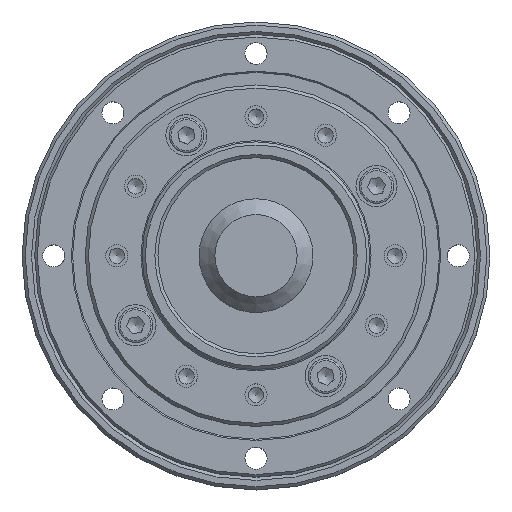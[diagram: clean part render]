
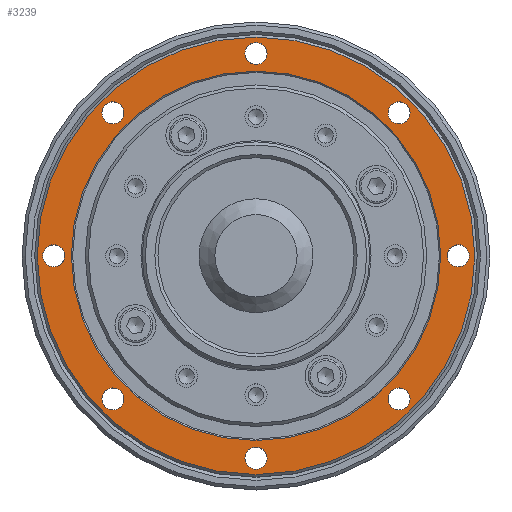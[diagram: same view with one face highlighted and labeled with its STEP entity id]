
A CAD part, top view. The second image highlights one B-rep face of the part: STEP entity #3239.
In plain terms, the highlighted planar face has unit normal (0, 0, 1).
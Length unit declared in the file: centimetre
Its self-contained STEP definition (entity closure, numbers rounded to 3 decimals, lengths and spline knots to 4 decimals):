
#343=PLANE('',#3620);
#505=FACE_BOUND('',#1085,.T.);
#506=FACE_BOUND('',#1086,.T.);
#507=FACE_BOUND('',#1087,.T.);
#508=FACE_BOUND('',#1088,.T.);
#509=FACE_BOUND('',#1089,.T.);
#510=FACE_BOUND('',#1090,.T.);
#511=FACE_BOUND('',#1091,.T.);
#512=FACE_BOUND('',#1092,.T.);
#513=FACE_BOUND('',#1093,.T.);
#514=FACE_BOUND('',#1094,.T.);
#1085=EDGE_LOOP('',(#2564));
#1086=EDGE_LOOP('',(#2565));
#1087=EDGE_LOOP('',(#2566));
#1088=EDGE_LOOP('',(#2567));
#1089=EDGE_LOOP('',(#2568));
#1090=EDGE_LOOP('',(#2569));
#1091=EDGE_LOOP('',(#2570));
#1092=EDGE_LOOP('',(#2571));
#1093=EDGE_LOOP('',(#2572));
#1094=EDGE_LOOP('',(#2573));
#1472=CIRCLE('',#3594,0.175);
#1474=CIRCLE('',#3597,0.175);
#1476=CIRCLE('',#3600,0.175);
#1478=CIRCLE('',#3603,0.175);
#1480=CIRCLE('',#3606,0.175);
#1482=CIRCLE('',#3609,0.175);
#1484=CIRCLE('',#3612,0.175);
#1486=CIRCLE('',#3615,0.175);
#1489=CIRCLE('',#3619,2.92);
#1490=CIRCLE('',#3621,3.46);
#1740=VERTEX_POINT('',#5406);
#1742=VERTEX_POINT('',#5411);
#1744=VERTEX_POINT('',#5416);
#1746=VERTEX_POINT('',#5421);
#1748=VERTEX_POINT('',#5426);
#1750=VERTEX_POINT('',#5431);
#1752=VERTEX_POINT('',#5436);
#1754=VERTEX_POINT('',#5441);
#1757=VERTEX_POINT('',#5448);
#1758=VERTEX_POINT('',#5451);
#2067=EDGE_CURVE('',#1740,#1740,#1472,.T.);
#2069=EDGE_CURVE('',#1742,#1742,#1474,.T.);
#2071=EDGE_CURVE('',#1744,#1744,#1476,.T.);
#2073=EDGE_CURVE('',#1746,#1746,#1478,.T.);
#2075=EDGE_CURVE('',#1748,#1748,#1480,.T.);
#2077=EDGE_CURVE('',#1750,#1750,#1482,.T.);
#2079=EDGE_CURVE('',#1752,#1752,#1484,.T.);
#2081=EDGE_CURVE('',#1754,#1754,#1486,.T.);
#2084=EDGE_CURVE('',#1757,#1757,#1489,.T.);
#2085=EDGE_CURVE('',#1758,#1758,#1490,.T.);
#2564=ORIENTED_EDGE('',*,*,#2084,.F.);
#2565=ORIENTED_EDGE('',*,*,#2081,.T.);
#2566=ORIENTED_EDGE('',*,*,#2079,.T.);
#2567=ORIENTED_EDGE('',*,*,#2077,.T.);
#2568=ORIENTED_EDGE('',*,*,#2075,.T.);
#2569=ORIENTED_EDGE('',*,*,#2073,.T.);
#2570=ORIENTED_EDGE('',*,*,#2071,.T.);
#2571=ORIENTED_EDGE('',*,*,#2069,.T.);
#2572=ORIENTED_EDGE('',*,*,#2067,.T.);
#2573=ORIENTED_EDGE('',*,*,#2085,.F.);
#3239=ADVANCED_FACE('',(#505,#506,#507,#508,#509,#510,#511,#512,#513,#514),
#343,.T.);
#3594=AXIS2_PLACEMENT_3D('',#5407,#4309,#4310);
#3597=AXIS2_PLACEMENT_3D('',#5412,#4315,#4316);
#3600=AXIS2_PLACEMENT_3D('',#5417,#4321,#4322);
#3603=AXIS2_PLACEMENT_3D('',#5422,#4327,#4328);
#3606=AXIS2_PLACEMENT_3D('',#5427,#4333,#4334);
#3609=AXIS2_PLACEMENT_3D('',#5432,#4339,#4340);
#3612=AXIS2_PLACEMENT_3D('',#5437,#4345,#4346);
#3615=AXIS2_PLACEMENT_3D('',#5442,#4351,#4352);
#3619=AXIS2_PLACEMENT_3D('',#5449,#4359,#4360);
#3620=AXIS2_PLACEMENT_3D('',#5450,#4361,#4362);
#3621=AXIS2_PLACEMENT_3D('',#5452,#4363,#4364);
#4309=DIRECTION('center_axis',(0.,0.,-1.));
#4310=DIRECTION('ref_axis',(0.,1.,0.));
#4315=DIRECTION('center_axis',(0.,0.,-1.));
#4316=DIRECTION('ref_axis',(0.,1.,0.));
#4321=DIRECTION('center_axis',(0.,0.,-1.));
#4322=DIRECTION('ref_axis',(0.,1.,0.));
#4327=DIRECTION('center_axis',(0.,0.,-1.));
#4328=DIRECTION('ref_axis',(0.,1.,0.));
#4333=DIRECTION('center_axis',(0.,0.,-1.));
#4334=DIRECTION('ref_axis',(0.,1.,0.));
#4339=DIRECTION('center_axis',(0.,0.,-1.));
#4340=DIRECTION('ref_axis',(0.,1.,0.));
#4345=DIRECTION('center_axis',(0.,0.,-1.));
#4346=DIRECTION('ref_axis',(0.,1.,0.));
#4351=DIRECTION('center_axis',(0.,0.,-1.));
#4352=DIRECTION('ref_axis',(0.,1.,0.));
#4359=DIRECTION('center_axis',(0.,0.,1.));
#4360=DIRECTION('ref_axis',(-1.,0.,0.));
#4361=DIRECTION('center_axis',(0.,0.,1.));
#4362=DIRECTION('ref_axis',(0.,-1.,0.));
#4363=DIRECTION('center_axis',(0.,0.,-1.));
#4364=DIRECTION('ref_axis',(-1.,0.,0.));
#5406=CARTESIAN_POINT('',(-2.2627,2.0877,1.36));
#5407=CARTESIAN_POINT('Origin',(-2.2627,2.2627,1.36));
#5411=CARTESIAN_POINT('',(-2.2627,-2.4377,1.36));
#5412=CARTESIAN_POINT('Origin',(-2.2627,-2.2627,1.36));
#5416=CARTESIAN_POINT('',(2.2627,-2.4377,1.36));
#5417=CARTESIAN_POINT('Origin',(2.2627,-2.2627,1.36));
#5421=CARTESIAN_POINT('',(2.2627,2.0877,1.36));
#5422=CARTESIAN_POINT('Origin',(2.2627,2.2627,1.36));
#5426=CARTESIAN_POINT('',(0.,3.025,1.36));
#5427=CARTESIAN_POINT('Origin',(0.,3.2,1.36));
#5431=CARTESIAN_POINT('',(3.2,-0.175,1.36));
#5432=CARTESIAN_POINT('Origin',(3.2,0.,1.36));
#5436=CARTESIAN_POINT('',(0.,-3.375,1.36));
#5437=CARTESIAN_POINT('Origin',(0.,-3.2,1.36));
#5441=CARTESIAN_POINT('',(-3.2,-0.175,1.36));
#5442=CARTESIAN_POINT('Origin',(-3.2,0.,1.36));
#5448=CARTESIAN_POINT('',(2.92,0.,1.36));
#5449=CARTESIAN_POINT('Origin',(0.,0.,1.36));
#5450=CARTESIAN_POINT('Origin',(3.5,0.,1.36));
#5451=CARTESIAN_POINT('',(3.46,0.,1.36));
#5452=CARTESIAN_POINT('Origin',(0.,0.,1.36));
